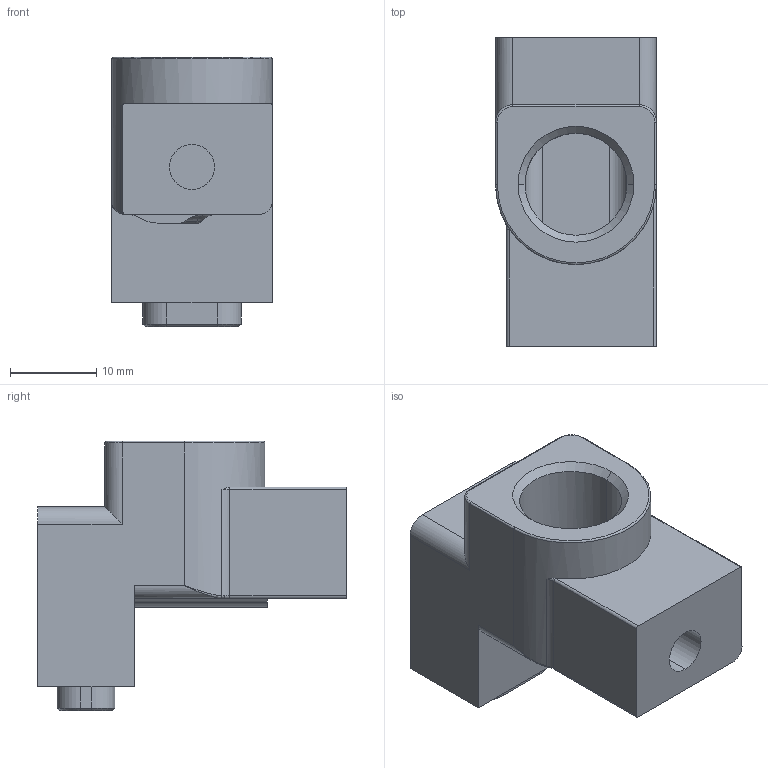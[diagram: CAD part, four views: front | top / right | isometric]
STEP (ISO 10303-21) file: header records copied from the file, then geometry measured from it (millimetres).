
FILE_DESCRIPTION((''),'2;1');
FILE_NAME('134907-7-30001','2026-08-22T09:46:23',('Administrator'),(''),'CREO PARAMETRIC BY PTC INC, 2025010','CREO PARAMETRIC BY PTC INC, 2025010','');
FILE_SCHEMA(('CONFIG_CONTROL_DESIGN'));
Length unit declared in the file: millimetre
Products named in the file (1): 134907-7-30001
Bounding box: 18.6 x 35.75 x 31.2 mm (x, y, z)
Volume: 8212.8 mm3; surface area: 5070 mm2
Topology: 1 solids, 1 shells, 115 faces, 298 edges, 189 vertices
Faces by surface type: plane 50, cylinder 50, torus 7, cone 6, bspline 2
Entity records: 3737 total; most frequent: CARTESIAN_POINT 836, DIRECTION 608, ORIENTED_EDGE 596, EDGE_CURVE 298, AXIS2_PLACEMENT_3D 216, VERTEX_POINT 189, VECTOR 176, LINE 176
